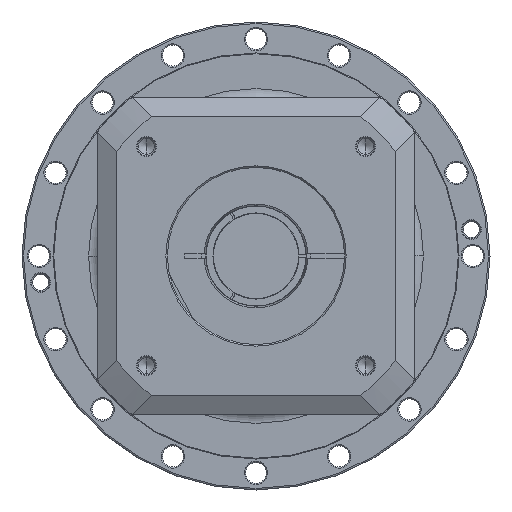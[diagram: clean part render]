
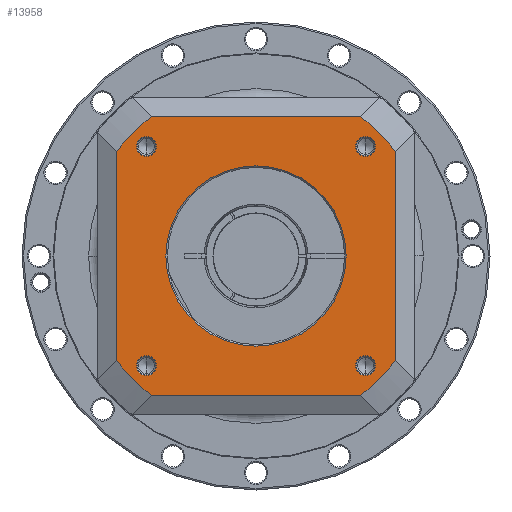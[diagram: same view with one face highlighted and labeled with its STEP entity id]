
A CAD part, left-side view. The second image highlights one B-rep face of the part: STEP entity #13958.
In plain terms, the highlighted planar face has unit normal (-1, 0, 0) as drawn and (0, 0, 1) by its records, which use the part's own axes.
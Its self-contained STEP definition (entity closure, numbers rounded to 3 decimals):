
#12731=CARTESIAN_POINT('',(0.,0.,
55.5));
#12732=DIRECTION('',(0.,0.,-1.));
#12733=DIRECTION('',(0.,-1.,0.));
#12734=AXIS2_PLACEMENT_3D('',#12731,#12732,#12733);
#12736=CARTESIAN_POINT('',(0.,0.,55.5));
#12737=DIRECTION('',(0.,0.,-1.));
#12738=DIRECTION('',(0.,1.,0.));
#12739=AXIS2_PLACEMENT_3D('',#12736,#12737,#12738);
#12741=DIRECTION('',(1.,0.,0.));
#12742=VECTOR('',#12741,135.);
#12743=CARTESIAN_POINT('',(-67.5,90.,55.5));
#12744=LINE('',#12743,#12742);
#12745=CARTESIAN_POINT('',(0.,0.,55.5));
#12746=DIRECTION('',(0.,0.,1.));
#12747=DIRECTION('',(0.8,0.6,0.));
#12748=AXIS2_PLACEMENT_3D('',#12745,#12746,#12747);
#12750=DIRECTION('',(0.,1.,0.));
#12751=VECTOR('',#12750,135.);
#12752=CARTESIAN_POINT('',(90.,-67.5,55.5));
#12753=LINE('',#12752,#12751);
#12754=DIRECTION('',(1.,0.,0.));
#12755=VECTOR('',#12754,135.);
#12756=CARTESIAN_POINT('',(-67.5,-90.,55.5));
#12757=LINE('',#12756,#12755);
#12758=CARTESIAN_POINT('',(0.,0.,55.5));
#12759=DIRECTION('',(0.,0.,1.));
#12760=DIRECTION('',(-0.8,-0.6,0.));
#12761=AXIS2_PLACEMENT_3D('',#12758,#12759,#12760);
#12763=DIRECTION('',(0.,1.,0.));
#12764=VECTOR('',#12763,135.);
#12765=CARTESIAN_POINT('',(-90.,-67.5,55.5));
#12766=LINE('',#12765,#12764);
#12781=CARTESIAN_POINT('',(0.,0.,55.5));
#12782=DIRECTION('',(0.,0.,1.));
#12783=DIRECTION('',(-0.6,0.8,0.));
#12784=AXIS2_PLACEMENT_3D('',#12781,#12782,#12783);
#12791=CARTESIAN_POINT('',(0.,0.,55.5));
#12792=DIRECTION('',(0.,0.,1.));
#12793=DIRECTION('',(0.6,-0.8,0.));
#12794=AXIS2_PLACEMENT_3D('',#12791,#12792,#12793);
#12808=CARTESIAN_POINT('',(-67.5,90.,55.5));
#12900=CARTESIAN_POINT('',(90.,-67.5,55.5));
#12928=CARTESIAN_POINT('',(67.5,-90.,55.5));
#12968=CARTESIAN_POINT('',(-90.,67.5,55.5));
#12977=CARTESIAN_POINT('',(-70.711,70.711,55.5));
#12978=DIRECTION('',(0.,0.,1.));
#12979=DIRECTION('',(-1.,0.,0.));
#12980=AXIS2_PLACEMENT_3D('',#12977,#12978,#12979);
#12995=CARTESIAN_POINT('',(-70.711,70.711,55.5));
#12996=DIRECTION('',(0.,0.,1.));
#12997=DIRECTION('',(1.,0.,0.));
#12998=AXIS2_PLACEMENT_3D('',#12995,#12996,#12997);
#13031=CARTESIAN_POINT('',(70.711,70.711,55.5));
#13032=DIRECTION('',(0.,0.,1.));
#13033=DIRECTION('',(-1.,0.,0.));
#13034=AXIS2_PLACEMENT_3D('',#13031,#13032,#13033);
#13049=CARTESIAN_POINT('',(70.711,70.711,55.5));
#13050=DIRECTION('',(0.,0.,1.));
#13051=DIRECTION('',(1.,0.,0.));
#13052=AXIS2_PLACEMENT_3D('',#13049,#13050,#13051);
#13085=CARTESIAN_POINT('',(70.711,-70.711,55.5));
#13086=DIRECTION('',(0.,0.,1.));
#13087=DIRECTION('',(-1.,0.,0.));
#13088=AXIS2_PLACEMENT_3D('',#13085,#13086,#13087);
#13103=CARTESIAN_POINT('',(70.711,-70.711,55.5));
#13104=DIRECTION('',(0.,0.,1.));
#13105=DIRECTION('',(1.,0.,0.));
#13106=AXIS2_PLACEMENT_3D('',#13103,#13104,#13105);
#13139=CARTESIAN_POINT('',(-70.711,-70.711,55.5));
#13140=DIRECTION('',(0.,0.,1.));
#13141=DIRECTION('',(-1.,0.,0.));
#13142=AXIS2_PLACEMENT_3D('',#13139,#13140,#13141);
#13157=CARTESIAN_POINT('',(-70.711,-70.711,55.5));
#13158=DIRECTION('',(0.,0.,1.));
#13159=DIRECTION('',(1.,0.,0.));
#13160=AXIS2_PLACEMENT_3D('',#13157,#13158,#13159);
#13247=CARTESIAN_POINT('',(-77.111,70.711,55.5));
#13248=CARTESIAN_POINT('',(-64.311,70.711,55.5));
#13249=VERTEX_POINT('',#13247);
#13250=VERTEX_POINT('',#13248);
#13273=CARTESIAN_POINT('',(-90.,-67.5,55.5));
#13274=CARTESIAN_POINT('',(-67.5,-90.,55.5));
#13275=VERTEX_POINT('',#13273);
#13276=VERTEX_POINT('',#13274);
#13277=CARTESIAN_POINT('',(90.,67.5,55.5));
#13278=CARTESIAN_POINT('',(67.5,90.,55.5));
#13279=VERTEX_POINT('',#13277);
#13280=VERTEX_POINT('',#13278);
#13289=VERTEX_POINT('',#12808);
#13292=VERTEX_POINT('',#12900);
#13293=VERTEX_POINT('',#12928);
#13296=VERTEX_POINT('',#12968);
#13305=CARTESIAN_POINT('',(77.111,70.711,55.5));
#13306=CARTESIAN_POINT('',(64.311,70.711,55.5));
#13307=VERTEX_POINT('',#13305);
#13308=VERTEX_POINT('',#13306);
#13313=CARTESIAN_POINT('',(77.111,-70.711,55.5));
#13314=CARTESIAN_POINT('',(64.311,-70.711,55.5));
#13315=VERTEX_POINT('',#13313);
#13316=VERTEX_POINT('',#13314);
#13321=CARTESIAN_POINT('',(-64.311,-70.711,55.5));
#13322=CARTESIAN_POINT('',(-77.111,-70.711,55.5));
#13323=VERTEX_POINT('',#13321);
#13324=VERTEX_POINT('',#13322);
#13329=CARTESIAN_POINT('',(0.,-58.15,55.5));
#13330=CARTESIAN_POINT('',(0.,58.15,
55.5));
#13331=VERTEX_POINT('',#13329);
#13332=VERTEX_POINT('',#13330);
#13906=CARTESIAN_POINT('',(0.,0.,55.5));
#13907=DIRECTION('',(0.,0.,1.));
#13908=DIRECTION('',(1.,0.,0.));
#13909=AXIS2_PLACEMENT_3D('',#13906,#13907,#13908);
#13910=PLANE('',#13909);
#13912=ORIENTED_EDGE('',*,*,#13911,.F.);
#13914=ORIENTED_EDGE('',*,*,#13913,.T.);
#13916=ORIENTED_EDGE('',*,*,#13915,.F.);
#13918=ORIENTED_EDGE('',*,*,#13917,.F.);
#13920=ORIENTED_EDGE('',*,*,#13919,.F.);
#13922=ORIENTED_EDGE('',*,*,#13921,.F.);
#13924=ORIENTED_EDGE('',*,*,#13923,.F.);
#13926=ORIENTED_EDGE('',*,*,#13925,.T.);
#13927=EDGE_LOOP('',(#13912,#13914,#13916,#13918,#13920,#13922,#13924,#13926));
#13928=FACE_OUTER_BOUND('',#13927,.F.);
#13930=ORIENTED_EDGE('',*,*,#13929,.F.);
#13931=ORIENTED_EDGE('',*,*,#13896,.F.);
#13932=EDGE_LOOP('',(#13930,#13931));
#13933=FACE_BOUND('',#13932,.F.);
#13935=ORIENTED_EDGE('',*,*,#13934,.T.);
#13937=ORIENTED_EDGE('',*,*,#13936,.T.);
#13938=EDGE_LOOP('',(#13935,#13937));
#13939=FACE_BOUND('',#13938,.F.);
#13941=ORIENTED_EDGE('',*,*,#13940,.T.);
#13943=ORIENTED_EDGE('',*,*,#13942,.T.);
#13944=EDGE_LOOP('',(#13941,#13943));
#13945=FACE_BOUND('',#13944,.F.);
#13947=ORIENTED_EDGE('',*,*,#13946,.T.);
#13949=ORIENTED_EDGE('',*,*,#13948,.T.);
#13950=EDGE_LOOP('',(#13947,#13949));
#13951=FACE_BOUND('',#13950,.F.);
#13953=ORIENTED_EDGE('',*,*,#13952,.T.);
#13955=ORIENTED_EDGE('',*,*,#13954,.T.);
#13956=EDGE_LOOP('',(#13953,#13955));
#13957=FACE_BOUND('',#13956,.F.);
#13958=ADVANCED_FACE('',(#13928,#13933,#13939,#13945,#13951,#13957),#13910,.T.);
#12735=CIRCLE('',#12734,58.15);
#12740=CIRCLE('',#12739,58.15);
#12749=CIRCLE('',#12748,112.5);
#12762=CIRCLE('',#12761,112.5);
#12785=CIRCLE('',#12784,112.5);
#12795=CIRCLE('',#12794,112.5);
#12981=CIRCLE('',#12980,6.4);
#12999=CIRCLE('',#12998,6.4);
#13035=CIRCLE('',#13034,6.4);
#13053=CIRCLE('',#13052,6.4);
#13089=CIRCLE('',#13088,6.4);
#13107=CIRCLE('',#13106,6.4);
#13143=CIRCLE('',#13142,6.4);
#13161=CIRCLE('',#13160,6.4);
#13896=EDGE_CURVE('',#13332,#13331,#12740,.T.);
#13911=EDGE_CURVE('',#13289,#13296,#12785,.T.);
#13913=EDGE_CURVE('',#13289,#13280,#12744,.T.);
#13915=EDGE_CURVE('',#13279,#13280,#12749,.T.);
#13917=EDGE_CURVE('',#13292,#13279,#12753,.T.);
#13919=EDGE_CURVE('',#13293,#13292,#12795,.T.);
#13921=EDGE_CURVE('',#13276,#13293,#12757,.T.);
#13923=EDGE_CURVE('',#13275,#13276,#12762,.T.);
#13925=EDGE_CURVE('',#13275,#13296,#12766,.T.);
#13929=EDGE_CURVE('',#13331,#13332,#12735,.T.);
#13934=EDGE_CURVE('',#13249,#13250,#12981,.T.);
#13936=EDGE_CURVE('',#13250,#13249,#12999,.T.);
#13940=EDGE_CURVE('',#13308,#13307,#13035,.T.);
#13942=EDGE_CURVE('',#13307,#13308,#13053,.T.);
#13946=EDGE_CURVE('',#13316,#13315,#13089,.T.);
#13948=EDGE_CURVE('',#13315,#13316,#13107,.T.);
#13952=EDGE_CURVE('',#13324,#13323,#13143,.T.);
#13954=EDGE_CURVE('',#13323,#13324,#13161,.T.);
